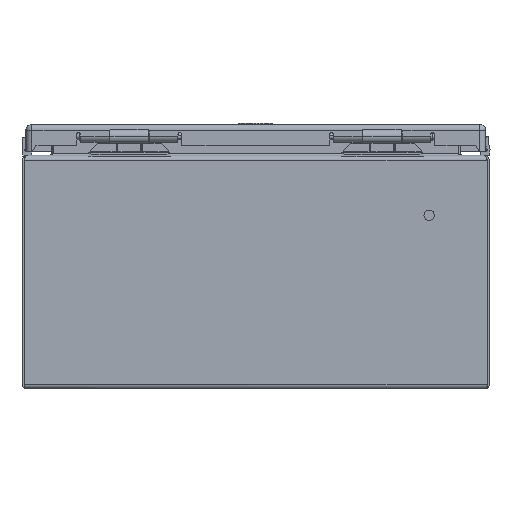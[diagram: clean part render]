
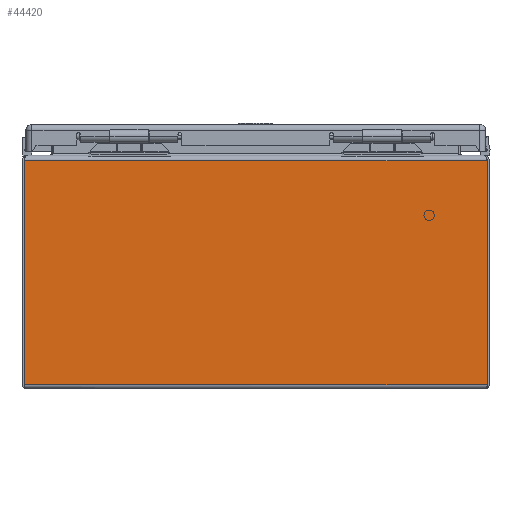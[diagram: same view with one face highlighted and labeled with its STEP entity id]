
A CAD part, left-side view. The second image highlights one B-rep face of the part: STEP entity #44420.
In plain terms, the highlighted planar face has unit normal (-1, 0, 0).
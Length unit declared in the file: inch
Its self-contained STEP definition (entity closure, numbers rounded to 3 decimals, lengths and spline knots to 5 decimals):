
#1024 = CARTESIAN_POINT ( 'NONE',  ( -6., 66., 5.859 ) ) ;
#1029 = PLANE ( 'NONE',  #38442 ) ;
#1034 = DIRECTION ( 'NONE',  ( -1., 0., 0. ) ) ;
#1035 = DIRECTION ( 'NONE',  ( 0., 0., -1. ) ) ;
#4537 = ORIENTED_EDGE ( 'NONE', *, *, #45445, .T. ) ;
#4538 = ORIENTED_EDGE ( 'NONE', *, *, #45384, .T. ) ;
#4539 = ORIENTED_EDGE ( 'NONE', *, *, #45442, .F. ) ;
#4540 = ORIENTED_EDGE ( 'NONE', *, *, #45427, .T. ) ;
#14304 = VERTEX_POINT ( 'NONE', #34576 ) ;
#14306 = VERTEX_POINT ( 'NONE', #34581 ) ;
#14455 = VERTEX_POINT ( 'NONE', #17791 ) ;
#14461 = VERTEX_POINT ( 'NONE', #16669 ) ;
#16669 = CARTESIAN_POINT ( 'NONE',  ( -6., 5.94693, 5.859 ) ) ;
#17791 = CARTESIAN_POINT ( 'NONE',  ( -6., -5.94693, 0.097 ) ) ;
#20604 = LINE ( 'NONE', #26895, #20606 ) ;
#20606 = VECTOR ( 'NONE', #26896, 39.37008 ) ;
#20714 = LINE ( 'NONE', #27042, #20720 ) ;
#20720 = VECTOR ( 'NONE', #27043, 39.37008 ) ;
#20752 = LINE ( 'NONE', #27076, #20763 ) ;
#20761 = LINE ( 'NONE', #27078, #20777 ) ;
#20763 = VECTOR ( 'NONE', #27077, 39.37008 ) ;
#20777 = VECTOR ( 'NONE', #27084, 39.37008 ) ;
#22568 = EDGE_LOOP ( 'NONE', ( #4540, #4539, #4538, #4537 ) ) ;
#26895 = CARTESIAN_POINT ( 'NONE',  ( -6., 5.94693, 5.859 ) ) ;
#26896 = DIRECTION ( 'NONE',  ( 0., 0., -1. ) ) ;
#27042 = CARTESIAN_POINT ( 'NONE',  ( -6., -5.94693, 5.859 ) ) ;
#27043 = DIRECTION ( 'NONE',  ( 0., 0., 1. ) ) ;
#27076 = CARTESIAN_POINT ( 'NONE',  ( -6., 66., 5.859 ) ) ;
#27077 = DIRECTION ( 'NONE',  ( 0., -1., 0. ) ) ;
#27078 = CARTESIAN_POINT ( 'NONE',  ( -6., 66., 0.097 ) ) ;
#27084 = DIRECTION ( 'NONE',  ( 0., -1., 0. ) ) ;
#34576 = CARTESIAN_POINT ( 'NONE',  ( -6., -5.94693, 5.859 ) ) ;
#34581 = CARTESIAN_POINT ( 'NONE',  ( -6., 5.94693, 0.097 ) ) ;
#38442 = AXIS2_PLACEMENT_3D ( 'NONE', #1024, #1034, #1035 ) ;
#41117 = FACE_OUTER_BOUND ( 'NONE', #22568, .T. ) ;
#44420 = ADVANCED_FACE ( 'NONE', ( #41117 ), #1029, .T. ) ;
#45384 = EDGE_CURVE ( 'NONE', #14461, #14306, #20604, .T. ) ;
#45427 = EDGE_CURVE ( 'NONE', #14455, #14304, #20714, .T. ) ;
#45442 = EDGE_CURVE ( 'NONE', #14461, #14304, #20752, .T. ) ;
#45445 = EDGE_CURVE ( 'NONE', #14306, #14455, #20761, .T. ) ;
